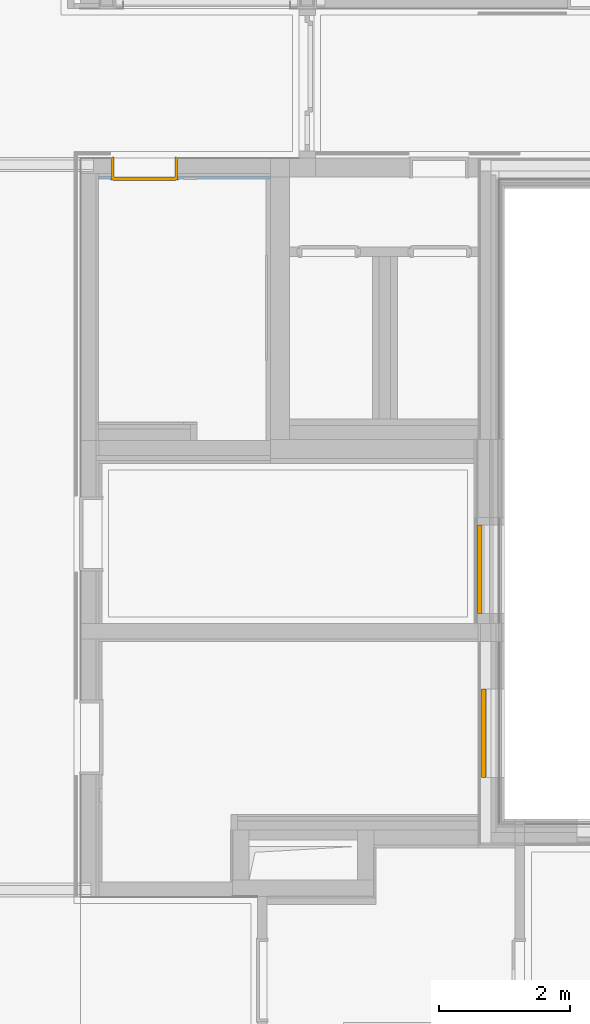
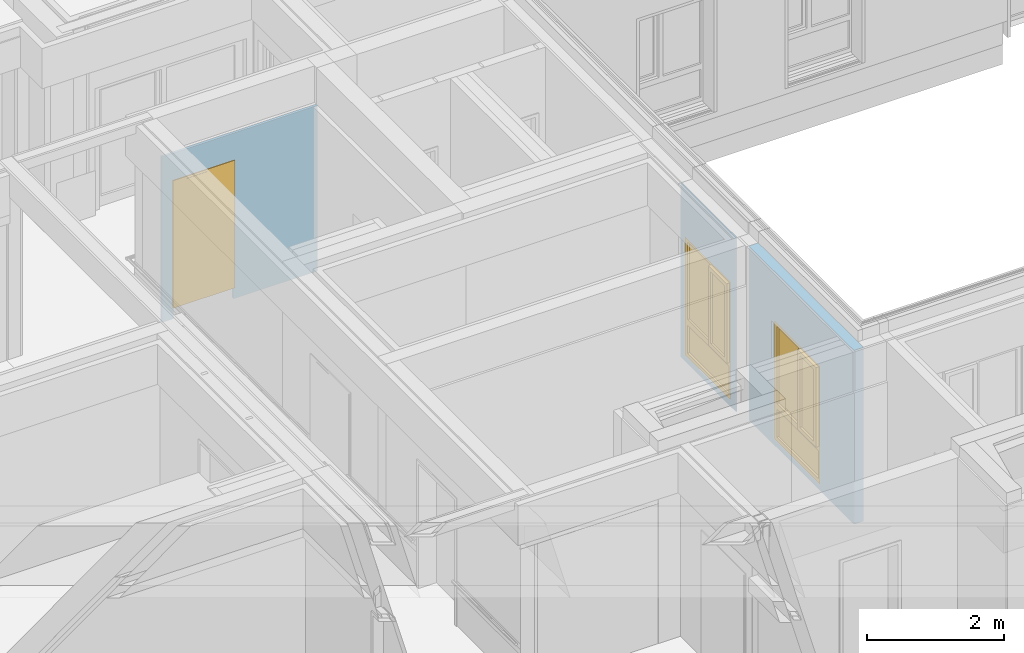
# One storey, part 100 of 207: 2 windows, 1 door, 3 openings, plus 3 elements that do not belong to this part.
"""IFC4 building model written with IfcOpenShell, lengths in metres."""

from ifc_helpers import new_model, entity, si_unit, converted_unit, derived_unit, frame, frame_2d, origin, origin_with_axes, place, context, subcontext, project, spatial, polyline, rectangle, outline, extrude, closed_shell, open_shell, faceted_brep, surface_model, source, transform, mapped, material, type_object, element, fill, save


model = new_model("IFC4")

# Units and contexts
model_context = context("Model", 3, precision=1e-05, world=origin())
body_context = subcontext(model_context, "Body", "Model", "MODEL_VIEW")
ifc_project = project(units=[si_unit("LENGTHUNIT", "METRE"), si_unit("AREAUNIT", "SQUARE_METRE"), si_unit("VOLUMEUNIT", "CUBIC_METRE"), si_unit("MASSUNIT", "GRAM", prefix="KILO"), converted_unit("PLANEANGLEUNIT", "DEGREE", entity("IfcPlaneAngleMeasure", 0.0174532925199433), si_unit("PLANEANGLEUNIT", "RADIAN"), dimensions=[0, 0, 0, 0, 0, 0, 0]), derived_unit("THERMALTRANSMITTANCEUNIT", [(si_unit("POWERUNIT", "WATT"), 1), (si_unit("THERMODYNAMICTEMPERATUREUNIT", "KELVIN"), -1), (si_unit("LENGTHUNIT", "METRE"), -2)]), derived_unit("VOLUMETRICFLOWRATEUNIT", [(si_unit("LENGTHUNIT", "METRE"), 3), (converted_unit("TIMEUNIT", "hour", entity("IfcTimeMeasure", 3600.0), si_unit("TIMEUNIT", "SECOND"), dimensions=[0, 0, 1, 0, 0, 0, 0]), -1), (si_unit("LENGTHUNIT", "METRE"), -1)])], contexts=[model_context])

# Site, building, storey
site_placement = place(None, origin())
site = spatial("IfcSite", under=ifc_project, at=site_placement, Name="Psychiatrie Neubau Wunstorf", CompositionType="ELEMENT")
building_placement = place(site_placement, origin())
building = spatial("IfcBuilding", under=site, at=building_placement, Name="Neubau H2 Stationsgebäude", CompositionType="ELEMENT")
storey_placement = place(building_placement, frame((0.0, 0.0, -0.2)))
storey = spatial("IfcBuildingStorey", under=building, at=storey_placement, Name="H2 Ebene 0", CompositionType="ELEMENT", Elevation=-0.2)

# Wall, opening, window
ifc_material_1 = material(Name="WA-HD")
wall_1_placement = place(storey_placement, frame((43.9750000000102, 13.2174966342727, 0.5), z_axis=(0.0, 0.0, 1.0), x_axis=(2.37195268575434e-15, -1.0, 0.0)))
wall_1 = element("IfcWall", 1, at=wall_1_placement, inside=storey, material=ifc_material_1, context=body_context, shape_type="SweptSolid", body=[
    extrude(rectangle(XDim=3.06749694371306, YDim=0.16, at=frame_2d((1.53374847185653, 0.08), x_axis=(1.0, 0.0))), origin_with_axes(), (0.0, 0.0, 1.0), 3.1),
])
opening_1_placement = place(wall_1_placement, frame((2.07249694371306, 0.160000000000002, 0.1), z_axis=(-2.8421709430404e-15, -1.0, 0.0), x_axis=(0.0, 0.0, 1.0)))
opening_1 = element("IfcOpeningElement", 2, at=opening_1_placement, cuts=wall_1, Name="Fensteröffnung", ObjectType="Opening", context=body_context, shape_type="SweptSolid", body=[
    extrude(outline(polyline([(2.12, 1.35), (2.12, 0.0), (0.0, 0.0), (0.0, 1.35), (2.12, 1.35)])), origin_with_axes(), (0.0, 0.0, 1.0), 0.16),
])
shared_shape_1 = source(origin_with_axes(), body_context, "Body", "SurfaceModel", [
    surface_model("IfcShellBasedSurfaceModel", [(1.35000000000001, 0.0, 2.12), (1.35000000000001, 0.0, 0.0), (1.28000000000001, 0.0, 0.0), (1.28000000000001, 0.0, 2.12), (1.35000000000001, 0.0699999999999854, 0.0), (1.35000000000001, 0.0699999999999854, 2.12), (1.28000000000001, 0.0699999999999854, 2.12), (1.28000000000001, 0.0699999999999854, 0.0)], [closed_shell([[[0, 1, 2, 3]], [[4, 5, 6, 7]], [[1, 0, 5, 4]], [[2, 1, 4, 7]], [[3, 2, 7, 6]], [[0, 3, 6, 5]]], orient=[[False], [False], [False], [False], [False], [False]])]),
    surface_model("IfcShellBasedSurfaceModel", [(0.0700000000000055, 0.0, 2.12), (0.0700000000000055, 0.0, 0.0), (0.0, 0.0, 0.0), (0.0, 0.0, 2.12), (0.0700000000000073, 0.0699999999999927, 0.0), (0.0700000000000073, 0.0699999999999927, 2.12), (0.0, 0.0699999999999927, 2.12), (0.0, 0.0699999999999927, 0.0)], [closed_shell([[[0, 1, 2, 3]], [[4, 5, 6, 7]], [[1, 0, 5, 4]], [[2, 1, 4, 7]], [[3, 2, 7, 6]], [[0, 3, 6, 5]]], orient=[[False], [False], [False], [False], [False], [False]])]),
    surface_model("IfcShellBasedSurfaceModel", [(1.28000000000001, 0.0, 0.07), (1.28000000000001, 0.0, 0.0), (0.0700000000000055, 0.0, 0.0), (0.0700000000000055, 0.0, 0.07), (1.28000000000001, 0.0699999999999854, 0.0), (1.28000000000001, 0.0699999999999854, 0.07), (0.0700000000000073, 0.0699999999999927, 0.07), (0.0700000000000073, 0.0699999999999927, 0.0)], [closed_shell([[[0, 1, 2, 3]], [[4, 5, 6, 7]], [[1, 0, 5, 4]], [[2, 1, 4, 7]], [[3, 2, 7, 6]], [[0, 3, 6, 5]]], orient=[[False], [False], [False], [False], [False], [False]])]),
    surface_model("IfcShellBasedSurfaceModel", [(1.28000000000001, 0.0, 2.12), (1.28000000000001, 0.0, 2.05), (0.0700000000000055, 0.0, 2.05), (0.0700000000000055, 0.0, 2.12), (1.28000000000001, 0.0699999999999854, 2.05), (1.28000000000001, 0.0699999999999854, 2.12), (0.0700000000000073, 0.0699999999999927, 2.12), (0.0700000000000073, 0.0699999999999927, 2.05)], [closed_shell([[[0, 1, 2, 3]], [[4, 5, 6, 7]], [[1, 0, 5, 4]], [[2, 1, 4, 7]], [[3, 2, 7, 6]], [[0, 3, 6, 5]]], orient=[[False], [False], [False], [False], [False], [False]])]),
    surface_model("IfcShellBasedSurfaceModel", [(1.28000000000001, 0.0, 0.67), (1.28000000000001, 0.0, 0.57), (0.0700000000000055, 0.0, 0.57), (0.0700000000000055, 0.0, 0.67), (1.28000000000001, 0.0699999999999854, 0.57), (1.28000000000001, 0.0699999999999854, 0.67), (0.0700000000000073, 0.0699999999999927, 0.67), (0.0700000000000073, 0.0699999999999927, 0.57)], [closed_shell([[[0, 1, 2, 3]], [[4, 5, 6, 7]], [[1, 0, 5, 4]], [[2, 1, 4, 7]], [[3, 2, 7, 6]], [[0, 3, 6, 5]]], orient=[[False], [False], [False], [False], [False], [False]])]),
    surface_model("IfcShellBasedSurfaceModel", [(1.28000000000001, 0.0349999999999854, 0.07), (0.0700000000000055, 0.0349999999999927, 0.07), (0.0700000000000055, 0.0349999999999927, 0.57), (1.28000000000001, 0.0349999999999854, 0.57)], [open_shell([[[0, 1, 2, 3]]], orient=[[False]])]),
    surface_model("IfcShellBasedSurfaceModel", [(0.780000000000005, 0.0, 2.05), (0.780000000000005, 0.0, 0.67), (0.710000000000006, 0.0, 0.67), (0.710000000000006, 0.0, 2.05), (0.780000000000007, 0.0699999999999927, 0.67), (0.780000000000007, 0.0699999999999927, 2.05), (0.710000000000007, 0.0699999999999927, 2.05), (0.710000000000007, 0.0699999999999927, 0.67)], [closed_shell([[[0, 1, 2, 3]], [[4, 5, 6, 7]], [[1, 0, 5, 4]], [[2, 1, 4, 7]], [[3, 2, 7, 6]], [[0, 3, 6, 5]]], orient=[[False], [False], [False], [False], [False], [False]])]),
    surface_model("IfcShellBasedSurfaceModel", [(1.30000000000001, -0.0500000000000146, 2.07), (1.30000000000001, -0.0500000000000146, 0.65), (1.23000000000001, -0.0500000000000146, 0.65), (1.23000000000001, -0.0500000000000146, 2.07), (1.30000000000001, 0.0199999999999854, 0.65), (1.30000000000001, 0.0199999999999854, 2.07), (1.23000000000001, 0.0199999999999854, 2.07), (1.23000000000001, 0.0199999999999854, 0.65)], [closed_shell([[[0, 1, 2, 3]], [[4, 5, 6, 7]], [[1, 0, 5, 4]], [[2, 1, 4, 7]], [[3, 2, 7, 6]], [[0, 3, 6, 5]]], orient=[[False], [False], [False], [False], [False], [False]])]),
    surface_model("IfcShellBasedSurfaceModel", [(0.830000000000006, -0.0500000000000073, 2.07), (0.830000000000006, -0.0500000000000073, 0.65), (0.760000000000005, -0.0500000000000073, 0.65), (0.760000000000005, -0.0500000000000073, 2.07), (0.830000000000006, 0.0199999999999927, 0.65), (0.830000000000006, 0.0199999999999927, 2.07), (0.760000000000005, 0.0199999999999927, 2.07), (0.760000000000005, 0.0199999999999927, 0.65)], [closed_shell([[[0, 1, 2, 3]], [[4, 5, 6, 7]], [[1, 0, 5, 4]], [[2, 1, 4, 7]], [[3, 2, 7, 6]], [[0, 3, 6, 5]]], orient=[[False], [False], [False], [False], [False], [False]])]),
    surface_model("IfcShellBasedSurfaceModel", [(1.23000000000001, -0.0500000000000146, 0.72), (1.23000000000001, -0.0500000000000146, 0.65), (0.830000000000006, -0.0500000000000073, 0.65), (0.830000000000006, -0.0500000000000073, 0.72), (1.23000000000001, 0.0199999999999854, 0.65), (1.23000000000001, 0.0199999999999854, 0.72), (0.830000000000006, 0.0199999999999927, 0.72), (0.830000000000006, 0.0199999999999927, 0.65)], [closed_shell([[[0, 1, 2, 3]], [[4, 5, 6, 7]], [[1, 0, 5, 4]], [[2, 1, 4, 7]], [[3, 2, 7, 6]], [[0, 3, 6, 5]]], orient=[[False], [False], [False], [False], [False], [False]])]),
    surface_model("IfcShellBasedSurfaceModel", [(1.23000000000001, -0.0500000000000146, 2.07), (1.23000000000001, -0.0500000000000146, 2.0), (0.830000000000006, -0.0500000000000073, 2.0), (0.830000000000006, -0.0500000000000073, 2.07), (1.23000000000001, 0.0199999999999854, 2.0), (1.23000000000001, 0.0199999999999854, 2.07), (0.830000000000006, 0.0199999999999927, 2.07), (0.830000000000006, 0.0199999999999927, 2.0)], [closed_shell([[[0, 1, 2, 3]], [[4, 5, 6, 7]], [[1, 0, 5, 4]], [[2, 1, 4, 7]], [[3, 2, 7, 6]], [[0, 3, 6, 5]]], orient=[[False], [False], [False], [False], [False], [False]])]),
    surface_model("IfcShellBasedSurfaceModel", [(0.710000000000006, 0.0349999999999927, 0.67), (0.0700000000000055, 0.0349999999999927, 0.67), (0.0700000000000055, 0.0349999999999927, 2.05), (0.710000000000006, 0.0349999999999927, 2.05)], [open_shell([[[0, 1, 2, 3]]], orient=[[False]])]),
    surface_model("IfcShellBasedSurfaceModel", [(1.23000000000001, -0.0150000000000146, 0.72), (0.830000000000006, -0.0150000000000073, 0.72), (0.830000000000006, -0.0150000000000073, 2.0), (1.23000000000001, -0.0150000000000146, 2.0)], [open_shell([[[0, 1, 2, 3]]], orient=[[False]])]),
])
window_1_placement = place(opening_1_placement, frame((0.0, 1.35, 0.146000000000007), z_axis=(1.0, 0.0, 0.0), x_axis=(0.0, -1.0, -5.85981649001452e-15)))
window_1 = element("IfcWindow", 3, at=window_1_placement, inside=storey, Name="Fenster", OverallHeight=2.12, OverallWidth=1.35, PartitioningType="USERDEFINED", PredefinedType="WINDOW", context=body_context, shape_type="MappedRepresentation", body=[
    mapped(shared_shape_1, transform((0.0, 0.0, 0.0), x_axis=(1.0, 0.0, 0.0), y_axis=(0.0, 1.0, 0.0), z_axis=(0.0, 0.0, 1.0), scale=1.0)),
])
fill(opening_1, window_1)

ifc_material_2 = material(Name="WA-LB")
wall_2_placement = place(storey_placement, frame((43.9150000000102, 15.1049996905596, 0.5), z_axis=(0.0, 0.0, 1.0), x_axis=(0.0, -1.0, 0.0)))
wall_2 = element("IfcWall", 4, at=wall_2_placement, inside=storey, material=ifc_material_2, context=body_context, shape_type="SweptSolid", body=[
    extrude(rectangle(XDim=1.6155030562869, YDim=0.019, at=frame_2d((0.807751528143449, 0.0095), x_axis=(1.0, 0.0))), origin_with_axes(), (0.0, 0.0, 1.0), 3.1),
])
opening_2_placement = place(wall_2_placement, frame((1.4600030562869, 0.019, 0.1), z_axis=(0.0, -1.0, 0.0), x_axis=(0.0, 0.0, 1.0)))
opening_2 = element("IfcOpeningElement", 5, at=opening_2_placement, cuts=wall_2, Name="Fensteröffnung", ObjectType="Opening", context=body_context, shape_type="SweptSolid", body=[
    extrude(outline(polyline([(2.12, 1.35), (2.12, 0.0), (0.0, 0.0), (0.0, 1.35), (2.12, 1.35)])), origin_with_axes(), (0.0, 0.0, 1.0), 0.019),
])
shared_shape_2 = source(origin_with_axes(), body_context, "Body", "SurfaceModel", [
    surface_model("IfcShellBasedSurfaceModel", [(1.35, 0.0, 2.12), (1.35, 0.0, 0.0), (1.28, 0.0, 0.0), (1.28, 0.0, 2.12), (1.35, 0.0699999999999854, 0.0), (1.35, 0.0699999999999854, 2.12), (1.28, 0.0699999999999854, 2.12), (1.28, 0.0699999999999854, 0.0)], [closed_shell([[[0, 1, 2, 3]], [[4, 5, 6, 7]], [[1, 0, 5, 4]], [[2, 1, 4, 7]], [[3, 2, 7, 6]], [[0, 3, 6, 5]]], orient=[[False], [False], [False], [False], [False], [False]])]),
    surface_model("IfcShellBasedSurfaceModel", [(0.0700000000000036, 0.0, 2.12), (0.0700000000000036, 0.0, 0.0), (0.0, 0.0, 0.0), (0.0, 0.0, 2.12), (0.0700000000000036, 0.0699999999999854, 0.0), (0.0700000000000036, 0.0699999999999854, 2.12), (0.0, 0.0699999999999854, 2.12), (0.0, 0.0699999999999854, 0.0)], [closed_shell([[[0, 1, 2, 3]], [[4, 5, 6, 7]], [[1, 0, 5, 4]], [[2, 1, 4, 7]], [[3, 2, 7, 6]], [[0, 3, 6, 5]]], orient=[[False], [False], [False], [False], [False], [False]])]),
    surface_model("IfcShellBasedSurfaceModel", [(1.28, 0.0, 0.07), (1.28, 0.0, 0.0), (0.0700000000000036, 0.0, 0.0), (0.0700000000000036, 0.0, 0.07), (1.28, 0.0699999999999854, 0.0), (1.28, 0.0699999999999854, 0.07), (0.0700000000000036, 0.0699999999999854, 0.07), (0.0700000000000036, 0.0699999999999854, 0.0)], [closed_shell([[[0, 1, 2, 3]], [[4, 5, 6, 7]], [[1, 0, 5, 4]], [[2, 1, 4, 7]], [[3, 2, 7, 6]], [[0, 3, 6, 5]]], orient=[[False], [False], [False], [False], [False], [False]])]),
    surface_model("IfcShellBasedSurfaceModel", [(1.28, 0.0, 2.12), (1.28, 0.0, 2.05), (0.0700000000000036, 0.0, 2.05), (0.0700000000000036, 0.0, 2.12), (1.28, 0.0699999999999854, 2.05), (1.28, 0.0699999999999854, 2.12), (0.0700000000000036, 0.0699999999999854, 2.12), (0.0700000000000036, 0.0699999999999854, 2.05)], [closed_shell([[[0, 1, 2, 3]], [[4, 5, 6, 7]], [[1, 0, 5, 4]], [[2, 1, 4, 7]], [[3, 2, 7, 6]], [[0, 3, 6, 5]]], orient=[[False], [False], [False], [False], [False], [False]])]),
    surface_model("IfcShellBasedSurfaceModel", [(1.28, 0.0, 0.67), (1.28, 0.0, 0.57), (0.0700000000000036, 0.0, 0.57), (0.0700000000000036, 0.0, 0.67), (1.28, 0.0699999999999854, 0.57), (1.28, 0.0699999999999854, 0.67), (0.0700000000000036, 0.0699999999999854, 0.67), (0.0700000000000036, 0.0699999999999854, 0.57)], [closed_shell([[[0, 1, 2, 3]], [[4, 5, 6, 7]], [[1, 0, 5, 4]], [[2, 1, 4, 7]], [[3, 2, 7, 6]], [[0, 3, 6, 5]]], orient=[[False], [False], [False], [False], [False], [False]])]),
    surface_model("IfcShellBasedSurfaceModel", [(1.28, 0.0349999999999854, 0.07), (0.0700000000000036, 0.0349999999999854, 0.07), (0.0700000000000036, 0.0349999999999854, 0.57), (1.28, 0.0349999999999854, 0.57)], [open_shell([[[0, 1, 2, 3]]], orient=[[False]])]),
    surface_model("IfcShellBasedSurfaceModel", [(0.780000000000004, 0.0, 2.05), (0.780000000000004, 0.0, 0.67), (0.710000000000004, 0.0, 0.67), (0.710000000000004, 0.0, 2.05), (0.780000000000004, 0.0699999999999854, 0.67), (0.780000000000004, 0.0699999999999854, 2.05), (0.710000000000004, 0.0699999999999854, 2.05), (0.710000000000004, 0.0699999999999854, 0.67)], [closed_shell([[[0, 1, 2, 3]], [[4, 5, 6, 7]], [[1, 0, 5, 4]], [[2, 1, 4, 7]], [[3, 2, 7, 6]], [[0, 3, 6, 5]]], orient=[[False], [False], [False], [False], [False], [False]])]),
    surface_model("IfcShellBasedSurfaceModel", [(1.3, -0.0500000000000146, 2.07), (1.3, -0.0500000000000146, 0.65), (1.23, -0.0500000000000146, 0.65), (1.23, -0.0500000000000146, 2.07), (1.3, 0.0199999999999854, 0.65), (1.3, 0.0199999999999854, 2.07), (1.23, 0.0199999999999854, 2.07), (1.23, 0.0199999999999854, 0.65)], [closed_shell([[[0, 1, 2, 3]], [[4, 5, 6, 7]], [[1, 0, 5, 4]], [[2, 1, 4, 7]], [[3, 2, 7, 6]], [[0, 3, 6, 5]]], orient=[[False], [False], [False], [False], [False], [False]])]),
    surface_model("IfcShellBasedSurfaceModel", [(0.830000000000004, -0.0500000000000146, 2.07), (0.830000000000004, -0.0500000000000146, 0.65), (0.760000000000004, -0.0500000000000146, 0.65), (0.760000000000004, -0.0500000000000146, 2.07), (0.830000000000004, 0.0199999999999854, 0.65), (0.830000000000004, 0.0199999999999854, 2.07), (0.760000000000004, 0.0199999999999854, 2.07), (0.760000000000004, 0.0199999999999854, 0.65)], [closed_shell([[[0, 1, 2, 3]], [[4, 5, 6, 7]], [[1, 0, 5, 4]], [[2, 1, 4, 7]], [[3, 2, 7, 6]], [[0, 3, 6, 5]]], orient=[[False], [False], [False], [False], [False], [False]])]),
    surface_model("IfcShellBasedSurfaceModel", [(1.23, -0.0500000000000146, 0.72), (1.23, -0.0500000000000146, 0.65), (0.830000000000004, -0.0500000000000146, 0.65), (0.830000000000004, -0.0500000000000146, 0.72), (1.23, 0.0199999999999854, 0.65), (1.23, 0.0199999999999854, 0.72), (0.830000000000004, 0.0199999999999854, 0.72), (0.830000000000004, 0.0199999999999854, 0.65)], [closed_shell([[[0, 1, 2, 3]], [[4, 5, 6, 7]], [[1, 0, 5, 4]], [[2, 1, 4, 7]], [[3, 2, 7, 6]], [[0, 3, 6, 5]]], orient=[[False], [False], [False], [False], [False], [False]])]),
    surface_model("IfcShellBasedSurfaceModel", [(1.23, -0.0500000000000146, 2.07), (1.23, -0.0500000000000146, 2.0), (0.830000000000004, -0.0500000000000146, 2.0), (0.830000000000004, -0.0500000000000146, 2.07), (1.23, 0.0199999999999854, 2.0), (1.23, 0.0199999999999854, 2.07), (0.830000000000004, 0.0199999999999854, 2.07), (0.830000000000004, 0.0199999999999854, 2.0)], [closed_shell([[[0, 1, 2, 3]], [[4, 5, 6, 7]], [[1, 0, 5, 4]], [[2, 1, 4, 7]], [[3, 2, 7, 6]], [[0, 3, 6, 5]]], orient=[[False], [False], [False], [False], [False], [False]])]),
    surface_model("IfcShellBasedSurfaceModel", [(0.710000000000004, 0.0349999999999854, 0.67), (0.0700000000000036, 0.0349999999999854, 0.67), (0.0700000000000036, 0.0349999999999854, 2.05), (0.710000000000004, 0.0349999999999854, 2.05)], [open_shell([[[0, 1, 2, 3]]], orient=[[False]])]),
    surface_model("IfcShellBasedSurfaceModel", [(1.23, -0.0150000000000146, 0.72), (0.830000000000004, -0.0150000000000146, 0.72), (0.830000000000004, -0.0150000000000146, 2.0), (1.23, -0.0150000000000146, 2.0)], [open_shell([[[0, 1, 2, 3]]], orient=[[False]])]),
])
window_2_placement = place(opening_2_placement, frame((0.0, 1.35, 0.005), z_axis=(1.0, 0.0, 0.0), x_axis=(0.0, -1.0, 0.0)))
window_2 = element("IfcWindow", 6, at=window_2_placement, inside=storey, Name="Fenster", OverallHeight=2.12, OverallWidth=1.35, PartitioningType="USERDEFINED", PredefinedType="WINDOW", context=body_context, shape_type="MappedRepresentation", body=[
    mapped(shared_shape_2, transform((0.0, 0.0, 0.0), x_axis=(1.0, 0.0, 0.0), y_axis=(0.0, 1.0, 0.0), z_axis=(0.0, 0.0, 1.0), scale=1.0)),
])
fill(opening_2, window_2)

# Wall, opening, door
ifc_material_3 = material(Name="WI-LB")
wall_3_placement = place(storey_placement, frame((38.154, 20.2644980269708, 0.0)))
wall_3 = element("IfcWall", 7, at=wall_3_placement, inside=storey, material=ifc_material_3, context=body_context, shape_type="SweptSolid", body=[
    extrude(rectangle(XDim=2.62500000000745, YDim=0.0395, at=frame_2d((1.31250000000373, 0.01975), x_axis=(1.0, 0.0))), origin_with_axes(), (0.0, 0.0, 1.0), 2.95),
])
opening_3_placement = place(wall_3_placement, frame((0.196000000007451, 0.0, 0.0), z_axis=(0.0, 1.0, 0.0), x_axis=(0.0, 0.0, 1.0)))
opening_3 = element("IfcOpeningElement", 8, at=opening_3_placement, cuts=wall_3, Name="Türöffnung", ObjectType="Opening", context=body_context, shape_type="SweptSolid", body=[
    extrude(outline(polyline([(2.46, 1.01), (2.46, 0.0), (0.0, 0.0), (0.0, 1.01), (2.46, 1.01)])), origin_with_axes(), (0.0, 0.0, 1.0), 0.0395),
])
ifc_material_4 = material(Name="TI-1F-UZ-ZK")
door_type = type_object("IfcDoorType", Name="SMT", OperationType="SINGLE_SWING_RIGHT", ParameterTakesPrecedence=False, PredefinedType="DOOR")
shared_shape_3 = source(origin_with_axes(), body_context, "Body", "Brep", [
    faceted_brep([(1.01, -0.015, 2.46), (1.01, -0.015, 0.2), (0.97, -0.015, 0.2), (0.97, -0.015, 2.46), (1.01, 0.3365, 0.2), (1.01, 0.3365, 2.46), (0.97, 0.3365, 2.46), (0.97, 0.3365, 0.2)], [[[0, 1, 2, 3]], [[4, 5, 6, 7]], [[1, 0, 5, 4]], [[2, 1, 4, 7]], [[3, 2, 7, 6]], [[0, 3, 6, 5]]], orient=[[False], [False], [False], [False], [False], [False]]),
    faceted_brep([(1.01, -0.015, 2.475), (1.025, -0.015, 2.475), (1.025, -0.015, 0.2), (1.01, -0.015, 0.2), (1.01, 0.0, 0.2), (1.025, 0.0, 0.2), (1.025, 0.0, 2.475), (1.01, 0.0, 2.475)], [[[0, 1, 2, 3]], [[4, 5, 6, 7]], [[3, 4, 7, 0]], [[2, 5, 4, 3]], [[1, 6, 5, 2]], [[0, 7, 6, 1]]], orient=[[False], [False], [False], [False], [False], [False]]),
    faceted_brep([(1.01, 0.3215, 2.475), (1.025, 0.3215, 2.475), (1.025, 0.3215, 0.2), (1.01, 0.3215, 0.2), (1.01, 0.3365, 0.2), (1.025, 0.3365, 0.2), (1.025, 0.3365, 2.475), (1.01, 0.3365, 2.475)], [[[0, 1, 2, 3]], [[4, 5, 6, 7]], [[3, 4, 7, 0]], [[2, 5, 4, 3]], [[1, 6, 5, 2]], [[0, 7, 6, 1]]], orient=[[False], [False], [False], [False], [False], [False]]),
    faceted_brep([(0.04, -0.015, 2.46), (0.04, -0.015, 0.2), (0.0, -0.015, 0.2), (0.0, -0.015, 2.46), (0.04, 0.3365, 0.2), (0.04, 0.3365, 2.46), (0.0, 0.3365, 2.46), (0.0, 0.3365, 0.2)], [[[0, 1, 2, 3]], [[4, 5, 6, 7]], [[1, 0, 5, 4]], [[2, 1, 4, 7]], [[3, 2, 7, 6]], [[0, 3, 6, 5]]], orient=[[False], [False], [False], [False], [False], [False]]),
    faceted_brep([(0.0, -0.015, 2.475), (0.0, -0.015, 0.2), (-0.015, -0.015, 0.2), (-0.015, -0.015, 2.475), (0.0, 0.0, 0.2), (0.0, 0.0, 2.475), (-0.015, 0.0, 2.475), (-0.015, 0.0, 0.2)], [[[0, 1, 2, 3]], [[4, 5, 6, 7]], [[1, 0, 5, 4]], [[2, 1, 4, 7]], [[3, 2, 7, 6]], [[0, 3, 6, 5]]], orient=[[False], [False], [False], [False], [False], [False]]),
    faceted_brep([(0.0, 0.3215, 2.475), (0.0, 0.3215, 0.2), (-0.015, 0.3215, 0.2), (-0.015, 0.3215, 2.475), (0.0, 0.3365, 0.2), (0.0, 0.3365, 2.475), (-0.015, 0.3365, 2.475), (-0.015, 0.3365, 0.2)], [[[0, 1, 2, 3]], [[4, 5, 6, 7]], [[1, 0, 5, 4]], [[2, 1, 4, 7]], [[3, 2, 7, 6]], [[0, 3, 6, 5]]], orient=[[False], [False], [False], [False], [False], [False]]),
    faceted_brep([(0.97, -0.015, 2.46), (0.97, -0.015, 2.42), (0.04, -0.015, 2.42), (0.04, -0.015, 2.46), (0.97, 0.3365, 2.42), (0.97, 0.3365, 2.46), (0.04, 0.3365, 2.46), (0.04, 0.3365, 2.42)], [[[0, 1, 2, 3]], [[4, 5, 6, 7]], [[1, 0, 5, 4]], [[2, 1, 4, 7]], [[3, 2, 7, 6]], [[0, 3, 6, 5]]], orient=[[False], [False], [False], [False], [False], [False]]),
    faceted_brep([(1.01, -0.015, 2.475), (1.01, -0.015, 2.46), (0.0, -0.015, 2.46), (0.0, -0.015, 2.475), (1.01, 0.0, 2.46), (1.01, 0.0, 2.475), (0.0, 0.0, 2.475), (0.0, 0.0, 2.46)], [[[0, 1, 2, 3]], [[4, 5, 6, 7]], [[1, 0, 5, 4]], [[2, 1, 4, 7]], [[3, 2, 7, 6]], [[0, 3, 6, 5]]], orient=[[False], [False], [False], [False], [False], [False]]),
    faceted_brep([(1.01, 0.3215, 2.475), (1.01, 0.3215, 2.46), (0.0, 0.3215, 2.46), (0.0, 0.3215, 2.475), (1.01, 0.3365, 2.46), (1.01, 0.3365, 2.475), (0.0, 0.3365, 2.475), (0.0, 0.3365, 2.46)], [[[0, 1, 2, 3]], [[4, 5, 6, 7]], [[1, 0, 5, 4]], [[2, 1, 4, 7]], [[3, 2, 7, 6]], [[0, 3, 6, 5]]], orient=[[False], [False], [False], [False], [False], [False]]),
    faceted_brep([(0.985, 0.2875, 2.435), (0.985, 0.2875, 0.2), (0.025, 0.2875, 0.2), (0.025, 0.2875, 2.435), (0.985, 0.3375, 0.2), (0.985, 0.3375, 2.435), (0.025, 0.3375, 2.435), (0.025, 0.3375, 0.2)], [[[0, 1, 2, 3]], [[4, 5, 6, 7]], [[1, 0, 5, 4]], [[2, 1, 4, 7]], [[3, 2, 7, 6]], [[0, 3, 6, 5]]], orient=[[False], [False], [False], [False], [False], [False]]),
])
door_placement = place(opening_3_placement, frame((0.0, 1.01, 0.3215), z_axis=(1.0, 0.0, 0.0), x_axis=(0.0, -1.0, 0.0)))
door = element("IfcDoor", 9, at=door_placement, inside=storey, type_object=door_type, material=ifc_material_4, Name="SMT", OverallHeight=2.46, OverallWidth=1.01, context=body_context, shape_type="MappedRepresentation", body=[
    mapped(shared_shape_3, transform((0.0, 0.0, 0.0), x_axis=(1.0, 0.0, 0.0), y_axis=(0.0, 1.0, 0.0), z_axis=(0.0, 0.0, 1.0), scale=1.0)),
])
fill(opening_3, door)

save(model, "model.ifc")
